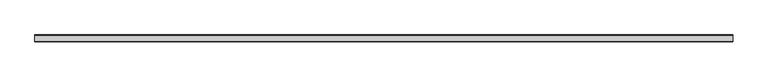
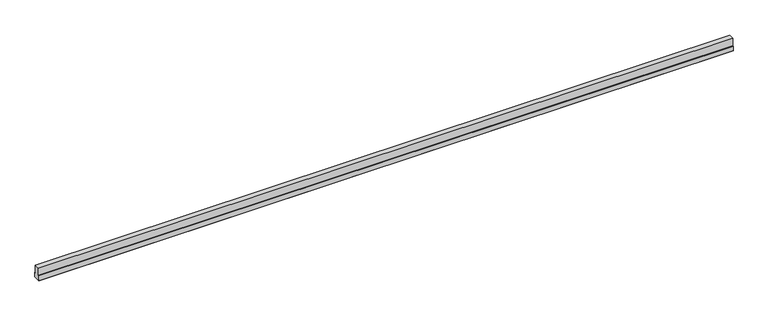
"""IFC4 building model written with IfcOpenShell, lengths in millimetres: proxy geometry, durlum_OMEGA_40 : durlum_OMEGA_40."""

from ifc_helpers import new_model, si_unit, origin, origin_with_axes, place, context, project, spatial, polyline, outline, extrude, faceted_brep, source, transform, mapped, element, save


def generic_models_744256a4(model_context):
    return source(origin(), model_context, "Body", "SolidModel", [
        extrude(outline(polyline([(1998.75, 18.75), (1998.75, -18.75), (-1998.75, -18.75), (-1998.75, 18.75), (1998.75, 18.75)])), origin_with_axes(), (0.0, 0.0, 1.0), 1.25),
        faceted_brep([(2000.0, 20.0, 29.0), (2000.0, 15.0, 29.0), (2000.0, 15.0, 73.0), (2000.0, -15.0, 73.0), (2000.0, -15.0, 29.0), (2000.0, -20.0, 29.0), (2000.0, -20.0, 0.0), (2000.0, 20.0, 0.0), (-2000.0, 20.0, 29.0), (-2000.0, 20.0, 0.0), (-2000.0, -20.0, 0.0), (-2000.0, -20.0, 29.0), (-2000.0, -15.0, 29.0), (-2000.0, -15.0, 73.0), (-2000.0, 15.0, 73.0), (-2000.0, 15.0, 29.0), (1998.75, 18.75, 0.0), (-1998.75, 18.75, 0.0), (-1998.75, -18.75, 0.0), (1998.75, -18.75, 0.0), (1998.75, 18.75, 5.5310709), (1998.75, -18.75, 5.5310709), (-1998.75, -18.75, 5.5310709), (-1998.75, 18.75, 5.5310709)], [[[0, 1, 2, 3, 4, 5, 6, 7]], [[8, 9, 10, 11, 12, 13, 14, 15]], [[1, 0, 8, 15]], [[2, 1, 15, 14]], [[3, 2, 14, 13]], [[4, 3, 13, 12]], [[5, 4, 12, 11]], [[6, 5, 11, 10]], [[7, 6, 10, 9], [16, 17, 18, 19]], [[0, 7, 9, 8]], [[20, 21, 22, 23]], [[20, 23, 17, 16]], [[23, 22, 18, 17]], [[22, 21, 19, 18]], [[21, 20, 16, 19]]]),
    ])


if __name__ == "__main__":
    model = new_model("IFC4")
    model_context = context("Model", 3, world=origin())
    ifc_project = project(units=[si_unit("LENGTHUNIT", "METRE", prefix="MILLI")], contexts=[model_context])
    site = spatial("IfcSite", under=ifc_project)
    building = spatial("IfcBuilding", under=site)
    placement = place(None, origin())
    generic_models_shape = generic_models_744256a4(model_context)
    element("IfcBuildingElementProxy", 1, Name="durlum_OMEGA_40 : durlum_OMEGA_40", ObjectType="durlum_OMEGA_40 : durlum_OMEGA_40", at=placement, inside=building, context=model_context, shape_type="MappedRepresentation", body=[
        mapped(generic_models_shape, transform((0.0, 0.0, 0.0), x_axis=(1.0, 0.0, 0.0), y_axis=(0.0, 1.0, 0.0), z_axis=(0.0, 0.0, 1.0))),
    ])
    save(model, "model.ifc")
